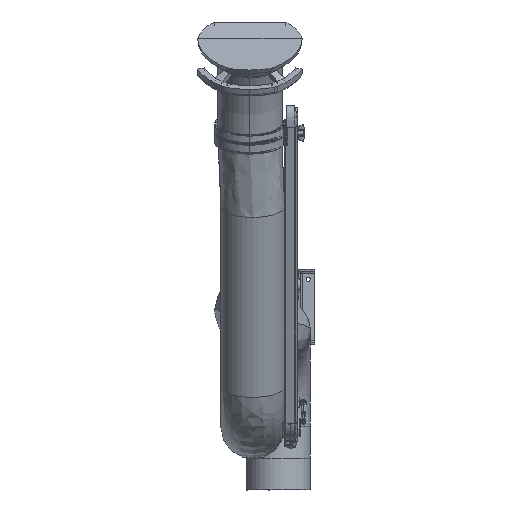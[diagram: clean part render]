
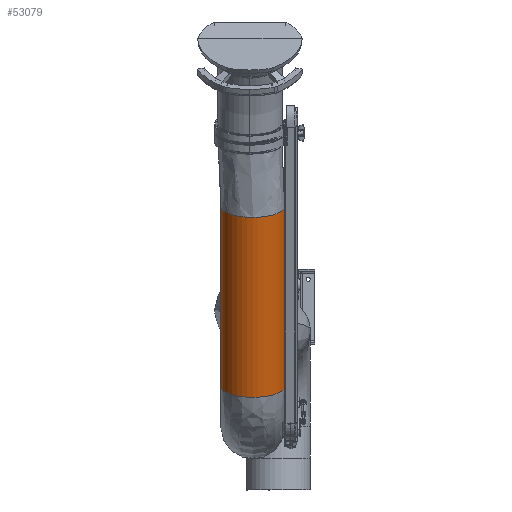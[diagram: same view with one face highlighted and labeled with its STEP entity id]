
A CAD part, front view. The second image highlights one B-rep face of the part: STEP entity #53079.
In plain terms, the highlighted free-form (B-spline) face has degree [3, 3] with [7, 6] control points.
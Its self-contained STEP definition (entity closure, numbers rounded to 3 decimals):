
#51214=CARTESIAN_POINT('',(-180.,0.,-275.));
#51215=CARTESIAN_POINT('',(-180.,0.,-341.667));
#51216=CARTESIAN_POINT('',(-180.,0.,-475.));
#51217=CARTESIAN_POINT('',(-180.,0.,-675.));
#51218=CARTESIAN_POINT('',(-180.,0.,-808.333));
#51219=CARTESIAN_POINT('',(-180.,0.,-875.));
#51224=CARTESIAN_POINT('',(-80.,0.,-275.));
#51225=DIRECTION('',(0.,0.,-1.));
#51226=DIRECTION('',(1.,0.,0.));
#51227=AXIS2_PLACEMENT_3D('',#51224,#51225,#51226);
#51232=CARTESIAN_POINT('',(20.,0.,-275.));
#51233=CARTESIAN_POINT('',(20.,0.,-341.667));
#51234=CARTESIAN_POINT('',(20.,0.,-475.));
#51235=CARTESIAN_POINT('',(20.,0.,-675.));
#51236=CARTESIAN_POINT('',(20.,0.,-808.333));
#51237=CARTESIAN_POINT('',(20.,0.,-875.));
#51242=CARTESIAN_POINT('',(-80.,0.,-875.));
#51243=DIRECTION('',(0.,0.,-1.));
#51244=DIRECTION('',(1.,0.,0.));
#51245=AXIS2_PLACEMENT_3D('',#51242,#51243,#51244);
#52716=CARTESIAN_POINT('',(20.,0.,-275.));
#52717=CARTESIAN_POINT('',(-180.,0.,-275.));
#52718=VERTEX_POINT('',#52716);
#52719=VERTEX_POINT('',#52717);
#52724=CARTESIAN_POINT('',(20.,0.,-875.));
#52725=CARTESIAN_POINT('',(-180.,0.,-875.));
#52726=VERTEX_POINT('',#52724);
#52727=VERTEX_POINT('',#52725);
#53029=CARTESIAN_POINT('',(19.803,6.279,-263.));
#53030=CARTESIAN_POINT('',(19.803,6.279,-267.));
#53031=CARTESIAN_POINT('',(19.803,6.279,-471.));
#53032=CARTESIAN_POINT('',(19.803,6.279,-679.));
#53033=CARTESIAN_POINT('',(19.803,6.279,-883.));
#53034=CARTESIAN_POINT('',(19.803,6.279,-887.));
#53035=CARTESIAN_POINT('',(23.667,-55.139,-263.));
#53036=CARTESIAN_POINT('',(23.667,-55.139,-267.));
#53037=CARTESIAN_POINT('',(23.667,-55.139,-471.));
#53038=CARTESIAN_POINT('',(23.667,-55.139,-679.));
#53039=CARTESIAN_POINT('',(23.667,-55.139,-883.));
#53040=CARTESIAN_POINT('',(23.667,-55.139,-887.));
#53041=CARTESIAN_POINT('',(-18.46,-100.,-263.));
#53042=CARTESIAN_POINT('',(-18.46,-100.,-267.));
#53043=CARTESIAN_POINT('',(-18.46,-100.,-471.));
#53044=CARTESIAN_POINT('',(-18.46,-100.,-679.));
#53045=CARTESIAN_POINT('',(-18.46,-100.,-883.));
#53046=CARTESIAN_POINT('',(-18.46,-100.,-887.));
#53047=CARTESIAN_POINT('',(-80.,-100.,-263.));
#53048=CARTESIAN_POINT('',(-80.,-100.,-267.));
#53049=CARTESIAN_POINT('',(-80.,-100.,-471.));
#53050=CARTESIAN_POINT('',(-80.,-100.,-679.));
#53051=CARTESIAN_POINT('',(-80.,-100.,-883.));
#53052=CARTESIAN_POINT('',(-80.,-100.,-887.));
#53053=CARTESIAN_POINT('',(-141.54,-100.,-263.));
#53054=CARTESIAN_POINT('',(-141.54,-100.,-267.));
#53055=CARTESIAN_POINT('',(-141.54,-100.,-471.));
#53056=CARTESIAN_POINT('',(-141.54,-100.,-679.));
#53057=CARTESIAN_POINT('',(-141.54,-100.,-883.));
#53058=CARTESIAN_POINT('',(-141.54,-100.,-887.));
#53059=CARTESIAN_POINT('',(-183.667,-55.139,-263.));
#53060=CARTESIAN_POINT('',(-183.667,-55.139,-267.));
#53061=CARTESIAN_POINT('',(-183.667,-55.139,-471.));
#53062=CARTESIAN_POINT('',(-183.667,-55.139,-679.));
#53063=CARTESIAN_POINT('',(-183.667,-55.139,-883.));
#53064=CARTESIAN_POINT('',(-183.667,-55.139,-887.));
#53065=CARTESIAN_POINT('',(-179.803,6.279,-263.));
#53066=CARTESIAN_POINT('',(-179.803,6.279,-267.));
#53067=CARTESIAN_POINT('',(-179.803,6.279,-471.));
#53068=CARTESIAN_POINT('',(-179.803,6.279,-679.));
#53069=CARTESIAN_POINT('',(-179.803,6.279,-883.));
#53070=CARTESIAN_POINT('',(-179.803,6.279,-887.));
#53071=(BOUNDED_SURFACE()B_SPLINE_SURFACE(3,3,((#53029,#53030,#53031,#53032,
#53033,#53034),(#53035,#53036,#53037,#53038,#53039,#53040),(#53041,#53042,
#53043,#53044,#53045,#53046),(#53047,#53048,#53049,#53050,#53051,#53052),
(#53053,#53054,#53055,#53056,#53057,#53058),(#53059,#53060,#53061,#53062,#53063,
#53064),(#53065,#53066,#53067,#53068,#53069,#53070)),.UNSPECIFIED.,.F.,.F.,.F.)B_SPLINE_SURFACE_WITH_KNOTS((4,3,4),(4,1,1,4),(0.,1.,2.),(-0.02,0.,1.,
1.02),.UNSPECIFIED.)GEOMETRIC_REPRESENTATION_ITEM()RATIONAL_B_SPLINE_SURFACE((
(1.187,1.187,1.187,1.187,
1.187,1.187),(0.938,0.938,
0.938,0.938,0.938,0.938),(
0.938,0.938,0.938,0.938,
0.938,0.938),(1.187,1.187,
1.187,1.187,1.187,1.187),(
0.938,0.938,0.938,0.938,
0.938,0.938),(0.938,0.938,
0.938,0.938,0.938,0.938),(
1.187,1.187,1.187,1.187,
1.187,1.187)))REPRESENTATION_ITEM('')SURFACE());
#53072=ORIENTED_EDGE('',*,*,#52876,.F.);
#53073=ORIENTED_EDGE('',*,*,#53017,.T.);
#53075=ORIENTED_EDGE('',*,*,#53074,.T.);
#53076=ORIENTED_EDGE('',*,*,#53013,.F.);
#53077=EDGE_LOOP('',(#53072,#53073,#53075,#53076));
#53078=FACE_OUTER_BOUND('',#53077,.F.);
#51220=B_SPLINE_CURVE_WITH_KNOTS('',3,(#51214,#51215,#51216,#51217,#51218,
#51219),.UNSPECIFIED.,.F.,.F.,(4,1,1,4),(0.,0.333,
0.667,1.),.UNSPECIFIED.);
#51228=CIRCLE('',#51227,100.);
#51238=B_SPLINE_CURVE_WITH_KNOTS('',3,(#51232,#51233,#51234,#51235,#51236,
#51237),.UNSPECIFIED.,.F.,.F.,(4,1,1,4),(0.,0.333,
0.667,1.),.UNSPECIFIED.);
#51246=CIRCLE('',#51245,100.);
#52876=EDGE_CURVE('',#52718,#52719,#51228,.T.);
#53013=EDGE_CURVE('',#52719,#52727,#51220,.T.);
#53017=EDGE_CURVE('',#52718,#52726,#51238,.T.);
#53074=EDGE_CURVE('',#52726,#52727,#51246,.T.);
#53079=ADVANCED_FACE('',(#53078),#53071,.T.);
